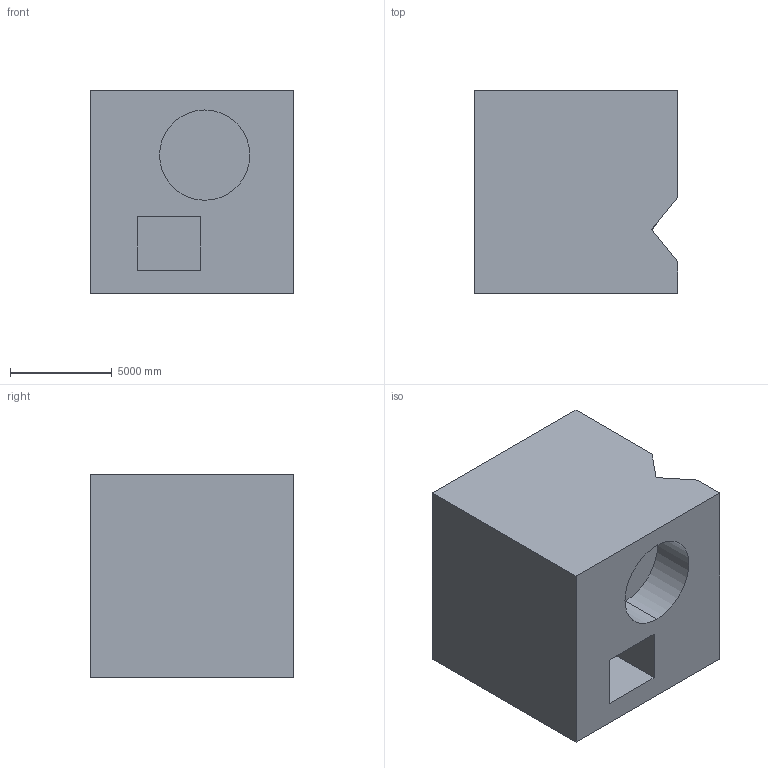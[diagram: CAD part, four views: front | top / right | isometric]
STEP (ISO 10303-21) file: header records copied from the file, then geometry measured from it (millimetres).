
FILE_DESCRIPTION (( 'STEP AP203' ), '1' );
FILE_NAME ('263.STEP', '2022-07-28T14:08:33', ( 'user' ), ( '' ), 'SwSTEP 2.0', 'SolidWorks 2021', '' );
FILE_SCHEMA (( 'CONFIG_CONTROL_DESIGN' ));
Length unit declared in the file: centimetre
Products named in the file (1): 263
Bounding box: 10000 x 10000 x 10000 mm (x, y, z)
Volume: 902014888820.1 mm3; surface area: 697089065 mm2
Topology: 1 solids, 1 shells, 17 faces, 39 edges, 26 vertices
Faces by surface type: plane 15, cylinder 2
Entity records: 554 total; most frequent: CARTESIAN_POINT 83, DIRECTION 79, ORIENTED_EDGE 78, EDGE_CURVE 39, LINE 35, VECTOR 35, VERTEX_POINT 26, AXIS2_PLACEMENT_3D 22
